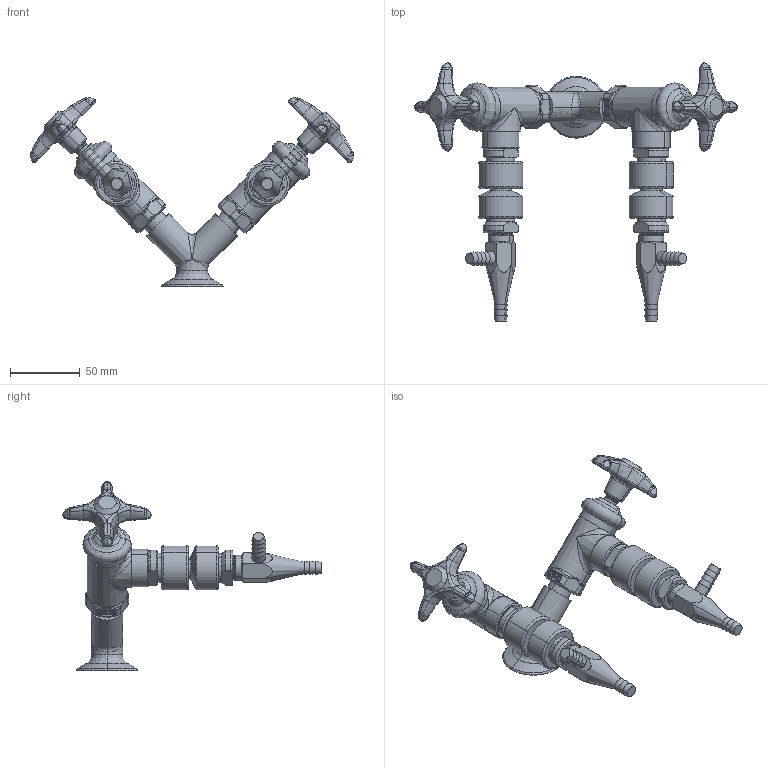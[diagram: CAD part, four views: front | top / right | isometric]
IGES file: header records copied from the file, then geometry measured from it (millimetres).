
Start section:  PTC IGES file: LWV2-C62-60.igs
Global section: file name: LWV2-C62-60.igs; native system: Creo Parametric by PTC Inc.; preprocessor: 2014500; author: usch_engrender; organization: Unknown; date: 20151118.124108; units: inch
Bounding box: 232.46 x 185.63 x 136.01 mm (x, y, z)
Volume: 280999.4 mm3; surface area: 61938.6 mm2
Topology: 1 solids, 7 shells, 995 faces, 2276 edges, 1339 vertices
Faces by surface type: bspline 553, revolution 442
